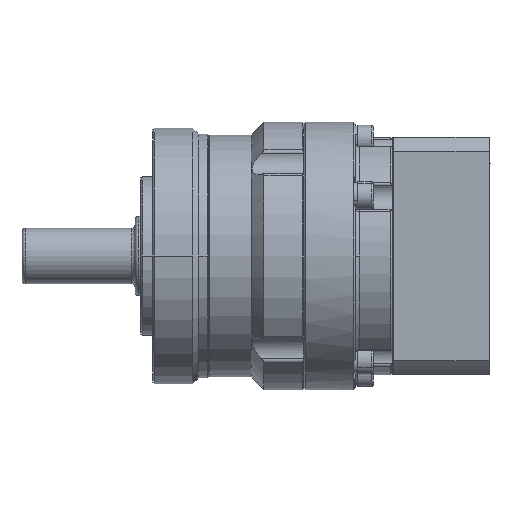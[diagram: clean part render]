
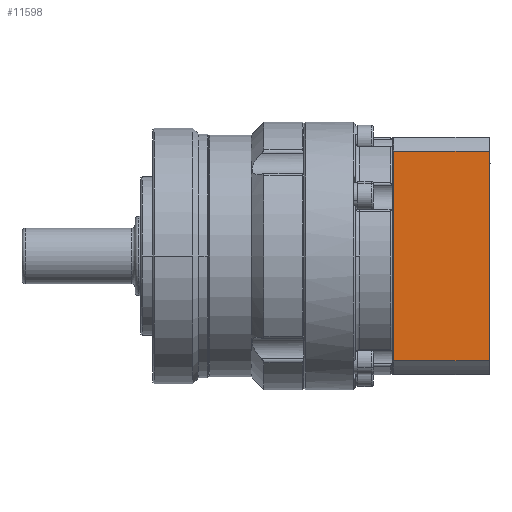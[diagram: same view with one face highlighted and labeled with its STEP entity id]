
A CAD part, front view. The second image highlights one B-rep face of the part: STEP entity #11598.
In plain terms, the highlighted planar face has unit normal (0, -1, 0).
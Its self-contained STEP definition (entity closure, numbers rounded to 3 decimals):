
#188 = FACE_OUTER_BOUND ( 'NONE', #17035, .T. ) ;
#243 = VERTEX_POINT ( 'NONE', #27501 ) ;
#449 = DIRECTION ( 'NONE',  ( 1., 0., 0. ) ) ;
#1564 = VECTOR ( 'NONE', #449, 1000. ) ;
#3469 = LINE ( 'NONE', #29516, #12602 ) ;
#5111 = VERTEX_POINT ( 'NONE', #7560 ) ;
#5148 = LINE ( 'NONE', #28533, #12824 ) ;
#6046 = DIRECTION ( 'NONE',  ( 0., 0., 1. ) ) ;
#7560 = CARTESIAN_POINT ( 'NONE',  ( 0.2, -30., 26.458 ) ) ;
#8384 = ORIENTED_EDGE ( 'NONE', *, *, #20921, .F. ) ;
#10191 = CARTESIAN_POINT ( 'NONE',  ( 0., -30., -26.458 ) ) ;
#10972 = DIRECTION ( 'NONE',  ( 0., 0., -1. ) ) ;
#11598 = ADVANCED_FACE ( 'NONE', ( #188 ), #19308, .F. ) ;
#11832 = EDGE_CURVE ( 'NONE', #5111, #243, #19290, .T. ) ;
#12602 = VECTOR ( 'NONE', #10972, 1000. ) ;
#12824 = VECTOR ( 'NONE', #19324, 1000. ) ;
#14465 = LINE ( 'NONE', #15406, #1564 ) ;
#14675 = AXIS2_PLACEMENT_3D ( 'NONE', #10191, #31543, #6046 ) ;
#14787 = ORIENTED_EDGE ( 'NONE', *, *, #37164, .F. ) ;
#15406 = CARTESIAN_POINT ( 'NONE',  ( 0., -30., 26.458 ) ) ;
#17035 = EDGE_LOOP ( 'NONE', ( #14787, #24084, #37972, #8384 ) ) ;
#17174 = CARTESIAN_POINT ( 'NONE',  ( 0.2, -30., 0. ) ) ;
#19290 = LINE ( 'NONE', #17174, #22624 ) ;
#19308 = PLANE ( 'NONE',  #14675 ) ;
#19324 = DIRECTION ( 'NONE',  ( -1., 0., 0. ) ) ;
#19811 = EDGE_CURVE ( 'NONE', #24218, #243, #5148, .T. ) ;
#20921 = EDGE_CURVE ( 'NONE', #38616, #24218, #3469, .T. ) ;
#21211 = CARTESIAN_POINT ( 'NONE',  ( 24.3, -30., 26.458 ) ) ;
#22624 = VECTOR ( 'NONE', #29268, 1000. ) ;
#24084 = ORIENTED_EDGE ( 'NONE', *, *, #11832, .T. ) ;
#24218 = VERTEX_POINT ( 'NONE', #33510 ) ;
#27501 = CARTESIAN_POINT ( 'NONE',  ( 0.2, -30., -26.458 ) ) ;
#28533 = CARTESIAN_POINT ( 'NONE',  ( -15.904, -30., -26.458 ) ) ;
#29268 = DIRECTION ( 'NONE',  ( 0., 0., -1. ) ) ;
#29516 = CARTESIAN_POINT ( 'NONE',  ( 24.3, -30., -26.458 ) ) ;
#31543 = DIRECTION ( 'NONE',  ( 0., 1., 0. ) ) ;
#33510 = CARTESIAN_POINT ( 'NONE',  ( 24.3, -30., -26.458 ) ) ;
#37164 = EDGE_CURVE ( 'NONE', #5111, #38616, #14465, .T. ) ;
#37972 = ORIENTED_EDGE ( 'NONE', *, *, #19811, .F. ) ;
#38616 = VERTEX_POINT ( 'NONE', #21211 ) ;
